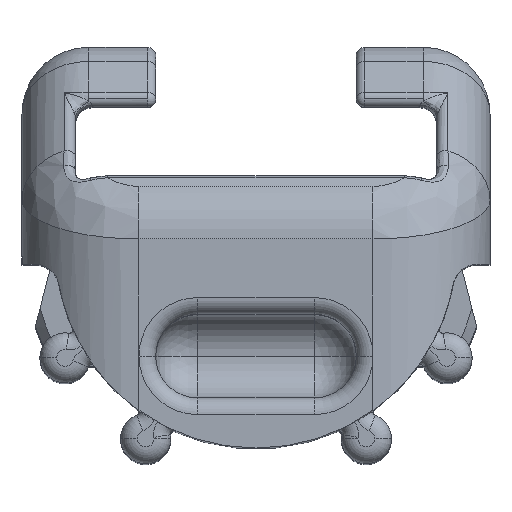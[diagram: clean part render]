
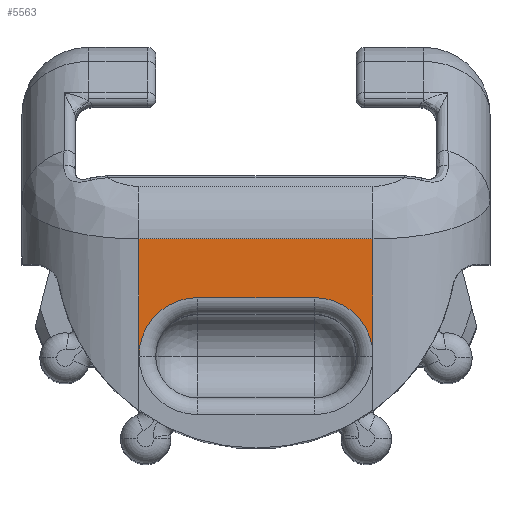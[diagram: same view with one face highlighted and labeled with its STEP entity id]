
A CAD part, top view. The second image highlights one B-rep face of the part: STEP entity #5563.
In plain terms, the highlighted planar face has unit normal (0, 0, 1).
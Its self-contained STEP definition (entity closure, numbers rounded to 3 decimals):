
#541 = ORIENTED_EDGE ( 'NONE', *, *, #10261, .T. ) ;
#896 = VECTOR ( 'NONE', #5901, 1000. ) ;
#1434 = VECTOR ( 'NONE', #8505, 1000. ) ;
#1515 = EDGE_LOOP ( 'NONE', ( #5941, #7329, #13524, #541, #3675, #2813 ) ) ;
#1525 = CARTESIAN_POINT ( 'NONE',  ( -3.5, -3.869, 51.451 ) ) ;
#1539 = VERTEX_POINT ( 'NONE', #5663 ) ;
#1572 = CARTESIAN_POINT ( 'NONE',  ( 1.75, -1.5, 51.451 ) ) ;
#1628 = CARTESIAN_POINT ( 'NONE',  ( 3.5, -3.25, 51.451 ) ) ;
#1636 = VERTEX_POINT ( 'NONE', #13825 ) ;
#2527 = CARTESIAN_POINT ( 'NONE',  ( 1.75, -3.25, 51.451 ) ) ;
#2574 = DIRECTION ( 'NONE',  ( 0., 0., 1. ) ) ;
#2813 = ORIENTED_EDGE ( 'NONE', *, *, #12472, .T. ) ;
#3084 = AXIS2_PLACEMENT_3D ( 'NONE', #2527, #4655, #7058 ) ;
#3485 = EDGE_CURVE ( 'NONE', #13492, #11392, #6889, .T. ) ;
#3675 = ORIENTED_EDGE ( 'NONE', *, *, #5332, .T. ) ;
#3937 = DIRECTION ( 'NONE',  ( 1., 0., 0. ) ) ;
#4086 = CARTESIAN_POINT ( 'NONE',  ( -3.5, 0.256, 51.451 ) ) ;
#4655 = DIRECTION ( 'NONE',  ( 0., 0., -1. ) ) ;
#4742 = LINE ( 'NONE', #1525, #896 ) ;
#4942 = DIRECTION ( 'NONE',  ( 1., 0., 0. ) ) ;
#5034 = CARTESIAN_POINT ( 'NONE',  ( 3.5, 0.256, 51.451 ) ) ;
#5083 = CARTESIAN_POINT ( 'NONE',  ( -7., -3.869, 51.451 ) ) ;
#5332 = EDGE_CURVE ( 'NONE', #5661, #6462, #4742, .T. ) ;
#5563 = ADVANCED_FACE ( 'NONE', ( #11587 ), #10436, .T. ) ;
#5579 = EDGE_CURVE ( 'NONE', #1539, #1636, #11451, .T. ) ;
#5661 = VERTEX_POINT ( 'NONE', #13107 ) ;
#5663 = CARTESIAN_POINT ( 'NONE',  ( -1.75, -1.5, 51.451 ) ) ;
#5901 = DIRECTION ( 'NONE',  ( 0., -1., 0. ) ) ;
#5941 = ORIENTED_EDGE ( 'NONE', *, *, #5579, .T. ) ;
#5953 = DIRECTION ( 'NONE',  ( 1., 0., 0. ) ) ;
#6024 = DIRECTION ( 'NONE',  ( 0., 0., -1. ) ) ;
#6415 = AXIS2_PLACEMENT_3D ( 'NONE', #5083, #2574, #3937 ) ;
#6462 = VERTEX_POINT ( 'NONE', #11175 ) ;
#6889 = LINE ( 'NONE', #11293, #8240 ) ;
#7058 = DIRECTION ( 'NONE',  ( 1., 0., 0. ) ) ;
#7074 = CIRCLE ( 'NONE', #10544, 1.75 ) ;
#7329 = ORIENTED_EDGE ( 'NONE', *, *, #7632, .T. ) ;
#7632 = EDGE_CURVE ( 'NONE', #1636, #11392, #13653, .T. ) ;
#8240 = VECTOR ( 'NONE', #9996, 1000. ) ;
#8263 = VECTOR ( 'NONE', #5953, 1000. ) ;
#8505 = DIRECTION ( 'NONE',  ( -1., 0., 0. ) ) ;
#9996 = DIRECTION ( 'NONE',  ( 0., -1., 0. ) ) ;
#10261 = EDGE_CURVE ( 'NONE', #13492, #5661, #13978, .T. ) ;
#10436 = PLANE ( 'NONE',  #6415 ) ;
#10544 = AXIS2_PLACEMENT_3D ( 'NONE', #11315, #6024, #4942 ) ;
#11175 = CARTESIAN_POINT ( 'NONE',  ( -3.5, -3.25, 51.451 ) ) ;
#11293 = CARTESIAN_POINT ( 'NONE',  ( 3.5, -3.869, 51.451 ) ) ;
#11315 = CARTESIAN_POINT ( 'NONE',  ( -1.75, -3.25, 51.451 ) ) ;
#11392 = VERTEX_POINT ( 'NONE', #1628 ) ;
#11451 = LINE ( 'NONE', #1572, #8263 ) ;
#11587 = FACE_OUTER_BOUND ( 'NONE', #1515, .T. ) ;
#12472 = EDGE_CURVE ( 'NONE', #6462, #1539, #7074, .T. ) ;
#13107 = CARTESIAN_POINT ( 'NONE',  ( -3.5, 0.256, 51.451 ) ) ;
#13492 = VERTEX_POINT ( 'NONE', #5034 ) ;
#13524 = ORIENTED_EDGE ( 'NONE', *, *, #3485, .F. ) ;
#13653 = CIRCLE ( 'NONE', #3084, 1.75 ) ;
#13825 = CARTESIAN_POINT ( 'NONE',  ( 1.75, -1.5, 51.451 ) ) ;
#13978 = LINE ( 'NONE', #4086, #1434 ) ;
